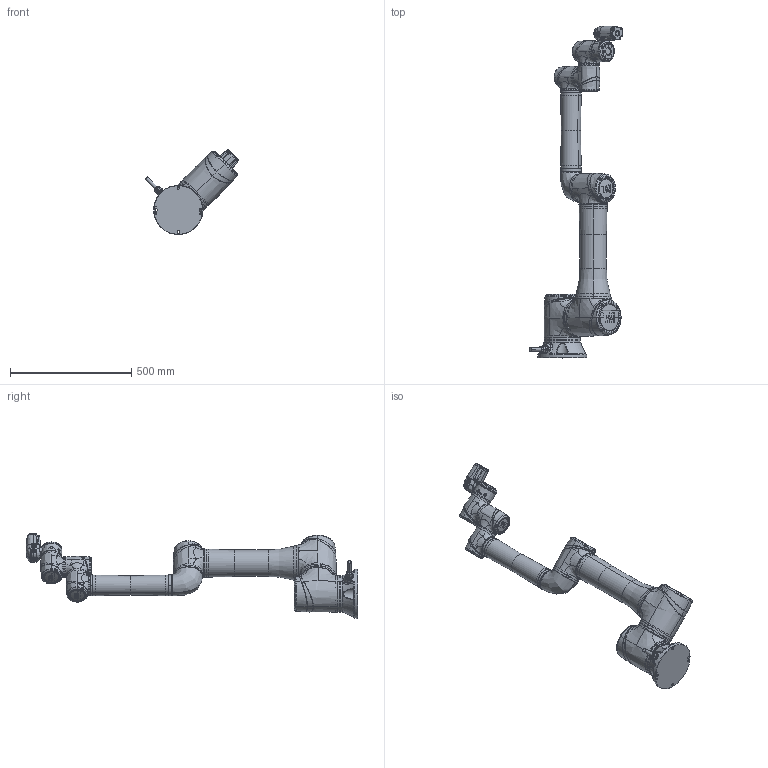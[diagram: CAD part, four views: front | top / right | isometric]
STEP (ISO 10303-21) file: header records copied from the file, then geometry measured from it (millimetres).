
FILE_DESCRIPTION((''),'2;1');
FILE_NAME('TRI-TM14-1100_ASM_5_ASM_1_ASM_1_ASM','2019-12-27T',('Jacque.Huang'),(''),'CREO PARAMETRIC BY PTC INC, 2015290','CREO PARAMETRIC BY PTC INC, 2015290','');
FILE_SCHEMA(('CONFIG_CONTROL_DESIGN'));
Products named in the file (41): HS700_6_1_1_2_1; OFLANGE700_5_1_1_2_1; ADC700_5_1_1_2_1; ADR700_5_1_1_2_1; CV700_7_1_1_2_1; M3_6_8_1_1_2_1; JT700_ASM_13_ASM_1_ASM_1_ASM_2__ASM; TM14ARM1_4_1_1_2_1; OFLANGE400_7_9_2_3_1_1_2_1; HS400_7_9_2_4_1_1_2_1; CV400_5_1_1_2_1; JT400_ASM_7_ASM_1_ASM_1_ASM_2_A_ASM; JL_5_1_1_2_1; TM14ARM2_4_1_1_2_1; RA1L_5_1_1_2_1; RA1L_ASM_7_ASM_1_ASM_1_ASM_2_AS_ASM; RA1S_5_1_1_2_1; RA2_5_1_1_2_1; BASE-TM1214_4_2_2_2_1; WIRE-MAIN_5_1_1_2_1; AVC-PG16-BODY_5_1_1_2_1; AVC-PG16-WASHER_5_1_1_2_1; AVC-PG16-THREAD-LOCK-NUT_5_1_1_; AVC-PG16-CALBE-GLANDS_ASM_5_ASM_ASM; BASE-ASSY-TM10-REAL_ASM_7_ASM_1_ASM; BASE-TM1214_ASM_8_ASM_1_ASM_4_A_ASM; OFLANGE100_7_8_2_4_1_1_2_1; HS100-TM5A_6_8_2_4_1_1_2_1; CV100_5_1_1_2_1; JT100_ASM_8_ASM_1_ASM_1_ASM_2_A_ASM; IO_MAIN_F_41_5_4_2_1; LENS_38_5_1_2_1; M3_8_19_5_1_2_1; IO_CAP_F_109_5_2_2_1; M5_16_6_5_1_2_1; 8A_05PFFS_SH7001_16_5_2_2_1; PBS_12H_ON_EX_27_5_1_2_1; ASM_IO_F_ASM_5_ASM_5_ASM-153846_ASM; LIGHT_MAIN-ALL-20190708_2_1; IOM-2_ASM_2_ASM_1_ASM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
Assembly tree (65 placements, depth 5):
  TRI-TM14-1100_ASM_5_ASM_1_ASM_1_ASM
    JT700_ASM_13_ASM_1_ASM_1_ASM_2__ASM  x2
      HS700_6_1_1_2_1
      OFLANGE700_5_1_1_2_1
      ADC700_5_1_1_2_1
      ADR700_5_1_1_2_1
      CV700_7_1_1_2_1
      M3_6_8_1_1_2_1
    TM14ARM1_4_1_1_2_1
    JT400_ASM_7_ASM_1_ASM_1_ASM_2_A_ASM
      OFLANGE400_7_9_2_3_1_1_2_1
      HS400_7_9_2_4_1_1_2_1
      CV400_5_1_1_2_1
      M3_6_8_1_1_2_1  x4
    JL_5_1_1_2_1
    TM14ARM2_4_1_1_2_1
    RA1L_ASM_7_ASM_1_ASM_1_ASM_2_AS_ASM
      RA1L_5_1_1_2_1
    RA1S_5_1_1_2_1
    RA2_5_1_1_2_1  x2
    BASE-TM1214_ASM_8_ASM_1_ASM_4_A_ASM
      BASE-ASSY-TM10-REAL_ASM_7_ASM_1_ASM
        BASE-TM1214_4_2_2_2_1
        WIRE-MAIN_5_1_1_2_1
        AVC-PG16-CALBE-GLANDS_ASM_5_ASM_ASM
          AVC-PG16-BODY_5_1_1_2_1
          AVC-PG16-WASHER_5_1_1_2_1
          AVC-PG16-THREAD-LOCK-NUT_5_1_1_
    JT100_ASM_8_ASM_1_ASM_1_ASM_2_A_ASM  x3
      OFLANGE100_7_8_2_4_1_1_2_1
      HS100-TM5A_6_8_2_4_1_1_2_1
      CV100_5_1_1_2_1
      M3_6_8_1_1_2_1
    IOM-2_ASM_2_ASM_1_ASM
      ASM_IO_F_ASM_5_ASM_5_ASM-153846_ASM
        IO_MAIN_F_41_5_4_2_1
        LENS_38_5_1_2_1
        M3_8_19_5_1_2_1  x5
        IO_CAP_F_109_5_2_2_1
        M5_16_6_5_1_2_1  x4
        8A_05PFFS_SH7001_16_5_2_2_1  x2
        PBS_12H_ON_EX_27_5_1_2_1  x4
      LIGHT_MAIN-ALL-20190708_2_1
Bounding box: 386.8 x 1370.06 x 351.45 mm (x, y, z)
Volume: 20554814.8 mm3; surface area: 1497846.9 mm2
Topology: 74 solids, 76 shells, 3594 faces, 9364 edges, 6104 vertices
Faces by surface type: bspline 1323, plane 1211, cylinder 518, torus 218, cone 150, extrusion 146, revolution 24, sphere 4
Entity records: 132934 total; most frequent: CARTESIAN_POINT 87507, ORIENTED_EDGE 10920, DIRECTION 6721, EDGE_CURVE 5460, VERTEX_POINT 3552, B_SPLINE_CURVE_WITH_KNOTS 2937, AXIS2_PLACEMENT_3D 2652, EDGE_LOOP 2218
